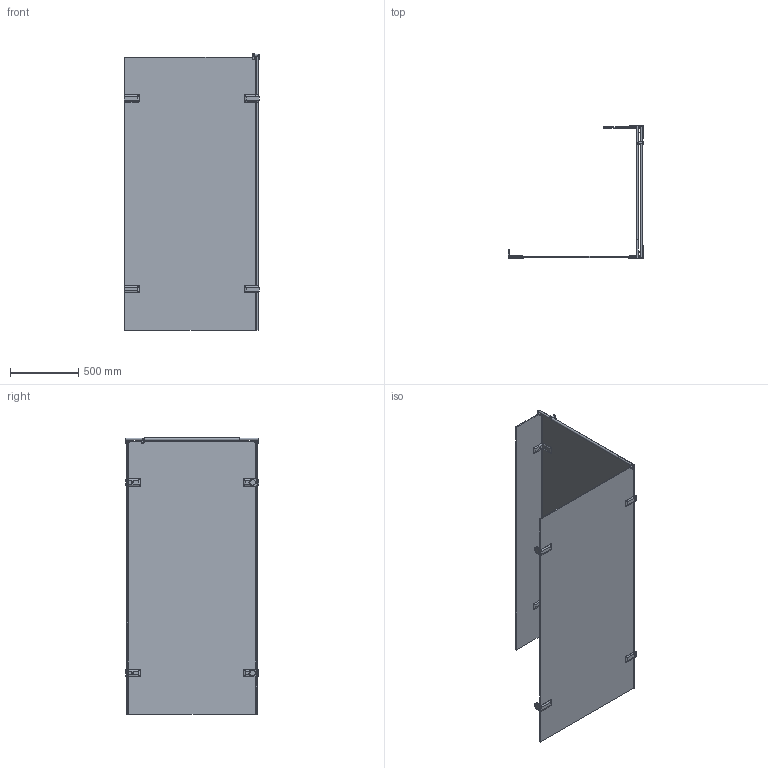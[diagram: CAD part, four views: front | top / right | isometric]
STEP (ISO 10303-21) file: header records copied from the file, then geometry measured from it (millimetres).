
FILE_DESCRIPTION(/* description */ (''),/* implementation_level */ '2;1');
FILE_NAME(/* name */ 'E:\Работа\Сергей\Душевые кабинки\! Работа\!!!!\50\TREND DOOR GK-883NG\TREND DOOR GK-883NG правая модель\TREND DOOR GK-883NG ПРАВАЯ-3D.stp',/* time_stamp */ '2018-11-25T19:43:55+03:00',/* author */ ('PC'),/* organization */ (''),/* preprocessor_version */ 'ST-DEVELOPER v15.2',/* originating_system */ 'Autodesk Inventor 2014',/* authorisation */ '');
FILE_SCHEMA (('CONFIG_CONTROL_DESIGN'));
Length unit declared in the file: millimetre
Products named in the file (1): TREND DOOR GK-883NG ПРАВАЯ-3
D
Bounding box: 993 x 982 x 2028.5 mm (x, y, z)
Volume: 36094545.7 mm3; surface area: 9093097.4 mm2
Topology: 1 solids, 1 shells, 371 faces, 980 edges, 595 vertices
Faces by surface type: plane 150, cylinder 104, bspline 60, torus 39, sphere 16, cone 2
Full cylindrical faces by diameter (mm): 12 x1, 15 x3, 20 x4, 40 x2
Entity records: 14910 total; most frequent: CARTESIAN_POINT 6002, ORIENTED_EDGE 1766, DIRECTION 1656, EDGE_CURVE 883, AXIS2_PLACEMENT_3D 580, VERTEX_POINT 575, LINE 496, VECTOR 496
